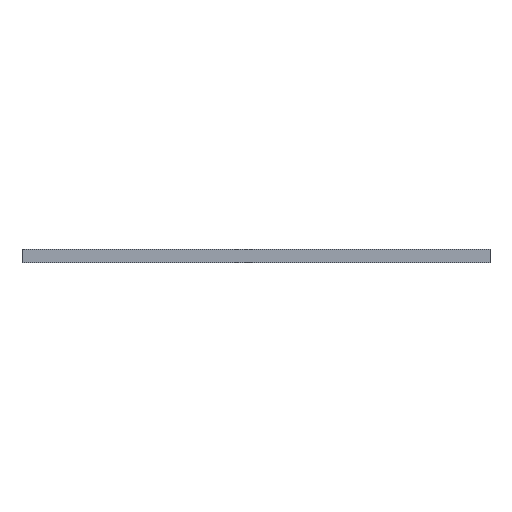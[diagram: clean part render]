
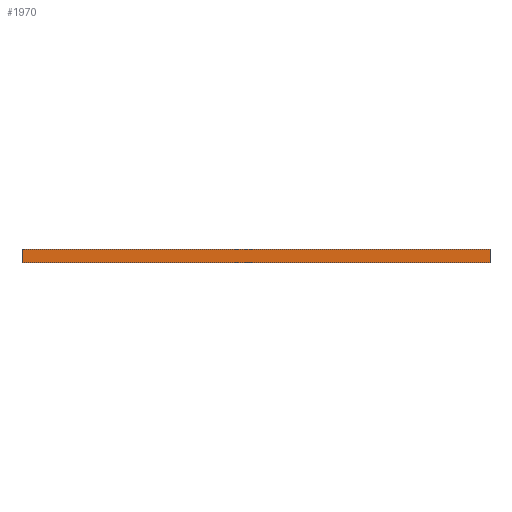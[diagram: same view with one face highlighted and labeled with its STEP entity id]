
A CAD part, front view. The second image highlights one B-rep face of the part: STEP entity #1970.
In plain terms, the highlighted planar face has unit normal (0, -1, 0).
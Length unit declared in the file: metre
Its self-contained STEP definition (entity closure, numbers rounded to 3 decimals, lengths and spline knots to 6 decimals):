
#62 = PLANE ( 'NONE',  #1729 ) ;
#187 = LINE ( 'NONE', #685, #1493 ) ;
#205 = EDGE_CURVE ( 'NONE', #528, #274, #532, .T. ) ;
#222 = DIRECTION ( 'NONE',  ( 0., 0., -1. ) ) ;
#249 = ORIENTED_EDGE ( 'NONE', *, *, #380, .F. ) ;
#274 = VERTEX_POINT ( 'NONE', #1327 ) ;
#282 = CARTESIAN_POINT ( 'NONE',  ( 0.035, -0.0625, -0.002 ) ) ;
#288 = DIRECTION ( 'NONE',  ( 1., 0., 0. ) ) ;
#380 = EDGE_CURVE ( 'NONE', #274, #1887, #910, .T. ) ;
#524 = FACE_OUTER_BOUND ( 'NONE', #609, .T. ) ;
#528 = VERTEX_POINT ( 'NONE', #1732 ) ;
#532 = LINE ( 'NONE', #1609, #1251 ) ;
#609 = EDGE_LOOP ( 'NONE', ( #249, #1151, #1851, #1614 ) ) ;
#685 = CARTESIAN_POINT ( 'NONE',  ( -0.035, -0.0625, -0.002 ) ) ;
#693 = DIRECTION ( 'NONE',  ( 0., 0., 1. ) ) ;
#910 = LINE ( 'NONE', #1366, #1719 ) ;
#996 = CARTESIAN_POINT ( 'NONE',  ( -0.035, -0.0625, -0.002 ) ) ;
#1016 = VERTEX_POINT ( 'NONE', #282 ) ;
#1120 = LINE ( 'NONE', #1926, #1530 ) ;
#1145 = DIRECTION ( 'NONE',  ( 0., 0., 1. ) ) ;
#1151 = ORIENTED_EDGE ( 'NONE', *, *, #205, .F. ) ;
#1246 = CARTESIAN_POINT ( 'NONE',  ( 0.035, -0.0625, 0. ) ) ;
#1251 = VECTOR ( 'NONE', #1145, 1. ) ;
#1327 = CARTESIAN_POINT ( 'NONE',  ( -0.035, -0.0625, 0. ) ) ;
#1366 = CARTESIAN_POINT ( 'NONE',  ( -0.035, -0.0625, 0. ) ) ;
#1493 = VECTOR ( 'NONE', #1919, 1. ) ;
#1530 = VECTOR ( 'NONE', #693, 1. ) ;
#1565 = EDGE_CURVE ( 'NONE', #528, #1016, #187, .T. ) ;
#1609 = CARTESIAN_POINT ( 'NONE',  ( -0.035, -0.0625, -0.002 ) ) ;
#1614 = ORIENTED_EDGE ( 'NONE', *, *, #1749, .T. ) ;
#1622 = DIRECTION ( 'NONE',  ( 0., -1., 0. ) ) ;
#1719 = VECTOR ( 'NONE', #288, 1. ) ;
#1729 = AXIS2_PLACEMENT_3D ( 'NONE', #996, #1622, #222 ) ;
#1732 = CARTESIAN_POINT ( 'NONE',  ( -0.035, -0.0625, -0.002 ) ) ;
#1749 = EDGE_CURVE ( 'NONE', #1016, #1887, #1120, .T. ) ;
#1851 = ORIENTED_EDGE ( 'NONE', *, *, #1565, .T. ) ;
#1887 = VERTEX_POINT ( 'NONE', #1246 ) ;
#1919 = DIRECTION ( 'NONE',  ( 1., 0., 0. ) ) ;
#1926 = CARTESIAN_POINT ( 'NONE',  ( 0.035, -0.0625, -0.002 ) ) ;
#1970 = ADVANCED_FACE ( 'NONE', ( #524 ), #62, .T. ) ;
